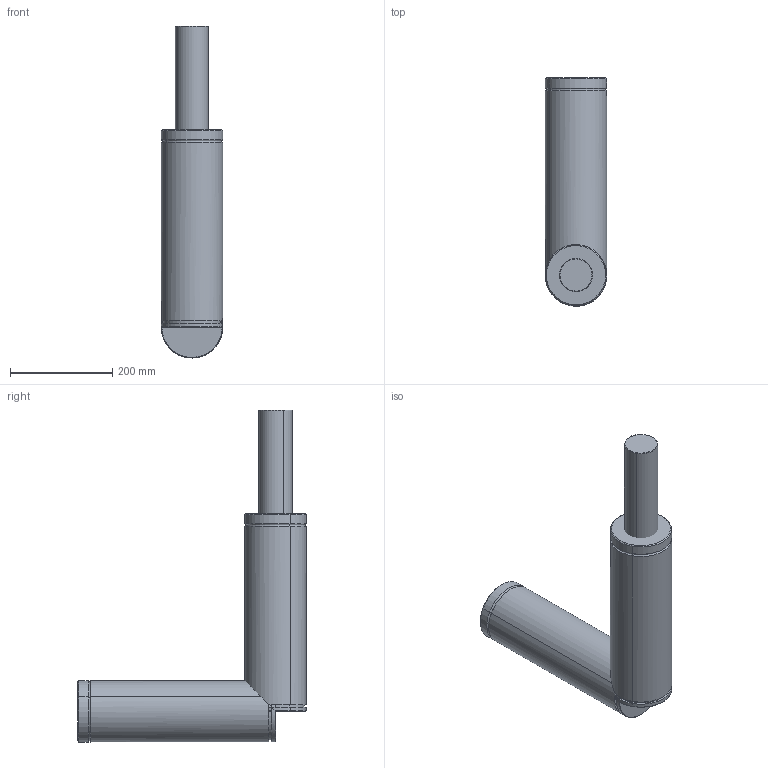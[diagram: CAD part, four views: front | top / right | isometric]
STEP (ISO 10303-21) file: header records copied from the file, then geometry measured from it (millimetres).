
FILE_DESCRIPTION(('CATIA V5 STEP Exchange'),'2;1');
FILE_NAME('W:\CATALOGO GENERAL 2018\FICHEROS CAD\004-TPS\TPS 5000\TPS 5000x225.stp','2017-11-20T14:43:38+00:00',('none'),('none'),'CATIA Version 5 Release 17 (IN-10)','CATIA V5 STEP AP203','none');
FILE_SCHEMA(('CONFIG_CONTROL_DESIGN'));
Length unit declared in the file: millimetre
Products named in the file (1): TPS 5000x225
Assembly tree (3 placements, depth 2):
  TPS 5000x225
    #56
    #2214
    #2604
Bounding box: 119.99 x 446.98 x 649.98 mm (x, y, z)
Volume: 9429014.2 mm3; surface area: 387742.9 mm2
Topology: 3 solids, 3 shells, 169 faces, 382 edges, 222 vertices
Faces by surface type: cylinder 51, cone 44, torus 38, plane 36
Entity records: 4345 total; most frequent: CARTESIAN_POINT 914, ORIENTED_EDGE 764, DIRECTION 536, EDGE_CURVE 382, AXIS2_PLACEMENT_3D 300, VERTEX_POINT 222, CIRCLE 201, EDGE_LOOP 174
